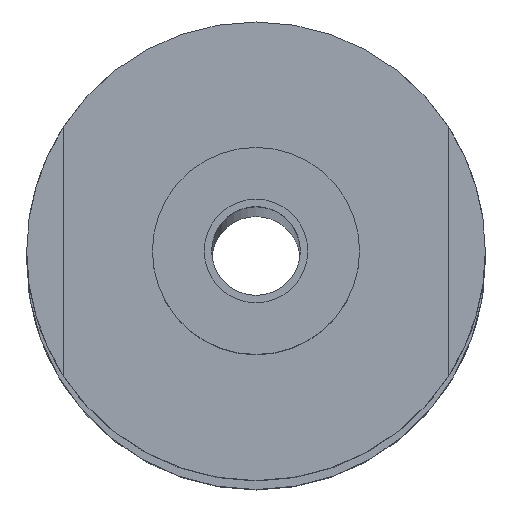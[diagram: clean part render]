
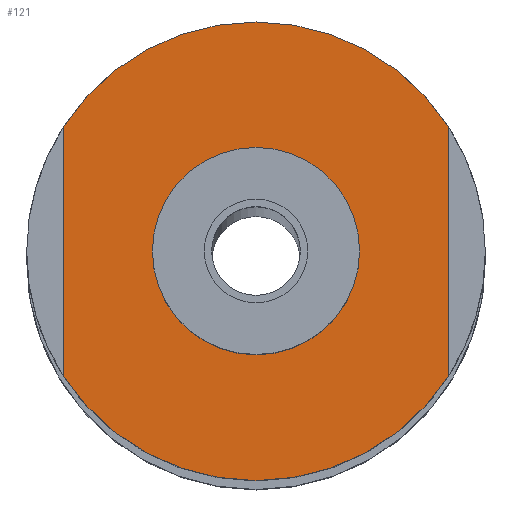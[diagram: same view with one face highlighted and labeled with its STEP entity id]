
A CAD part, top view. The second image highlights one B-rep face of the part: STEP entity #121.
In plain terms, the highlighted planar face has unit normal (0, 0, 1).
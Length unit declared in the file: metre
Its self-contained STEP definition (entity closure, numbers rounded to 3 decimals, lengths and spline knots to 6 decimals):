
#121=ADVANCED_FACE('37:1511',(#238,#239),#240,.T.);
#238=FACE_OUTER_BOUND('',#364,.T.);
#239=FACE_BOUND('',#365,.T.);
#240=PLANE('',#366);
#364=EDGE_LOOP('',(#596,#597,#598,#599,#600,#601));
#365=EDGE_LOOP('',(#602,#603));
#366=AXIS2_PLACEMENT_3D('',#604,#605,#606);
#596=ORIENTED_EDGE('',*,*,#761,.F.);
#597=ORIENTED_EDGE('',*,*,#760,.F.);
#598=ORIENTED_EDGE('',*,*,#756,.F.);
#599=ORIENTED_EDGE('',*,*,#688,.F.);
#600=ORIENTED_EDGE('',*,*,#687,.F.);
#601=ORIENTED_EDGE('',*,*,#751,.T.);
#602=ORIENTED_EDGE('',*,*,#749,.F.);
#603=ORIENTED_EDGE('',*,*,#693,.F.);
#604=CARTESIAN_POINT('',(0.0,0.0,2.725));
#605=DIRECTION('',(0.0,0.0,1.0));
#606=DIRECTION('',(1.0,0.0,0.0));
#687=EDGE_CURVE('37:1561',#812,#814,#815,.F.);
#688=EDGE_CURVE('37:1552',#814,#816,#817,.F.);
#693=EDGE_CURVE('',#822,#825,#826,.T.);
#749=EDGE_CURVE('37:1539',#825,#822,#907,.T.);
#751=EDGE_CURVE('37:3142',#812,#909,#910,.T.);
#756=EDGE_CURVE('37:2641',#816,#917,#918,.F.);
#760=EDGE_CURVE('37:1558',#917,#922,#923,.F.);
#761=EDGE_CURVE('37:1549',#922,#909,#924,.F.);
#812=VERTEX_POINT('',#1001);
#814=VERTEX_POINT('',#1004);
#815=CIRCLE('',#1005,0.0155);
#816=VERTEX_POINT('',#1006);
#817=CIRCLE('',#1007,0.0155);
#822=VERTEX_POINT('',#1013);
#825=VERTEX_POINT('',#1017);
#826=CIRCLE('',#1018,0.007);
#907=CIRCLE('',#1116,0.007);
#909=VERTEX_POINT('',#1118);
#910=LINE('',#1119,#1120);
#917=VERTEX_POINT('',#1130);
#918=LINE('',#1131,#1132);
#922=VERTEX_POINT('',#1137);
#923=CIRCLE('',#1138,0.0155);
#924=CIRCLE('',#1139,0.0155);
#1001=CARTESIAN_POINT('',(-0.013092,0.008536,2.725));
#1004=CARTESIAN_POINT('',(-0.000092,0.015595,2.725));
#1005=AXIS2_PLACEMENT_3D('',#1221,#1222,#1223);
#1006=CARTESIAN_POINT('',(0.012908,0.008536,2.725));
#1007=AXIS2_PLACEMENT_3D('',#1224,#1225,#1226);
#1013=CARTESIAN_POINT('',(0.006908,0.000095,2.725));
#1017=CARTESIAN_POINT('',(-0.007092,0.000095,2.725));
#1018=AXIS2_PLACEMENT_3D('',#1232,#1233,#1234);
#1116=AXIS2_PLACEMENT_3D('',#1318,#1319,#1320);
#1118=CARTESIAN_POINT('',(-0.013092,-0.008346,2.725));
#1119=CARTESIAN_POINT('',(-0.013092,0.000048,2.725));
#1120=VECTOR('',#1321,1.0);
#1130=CARTESIAN_POINT('',(0.012908,-0.008346,2.725));
#1131=CARTESIAN_POINT('',(0.012908,0.000048,2.725));
#1132=VECTOR('',#1325,1.0);
#1137=CARTESIAN_POINT('',(-0.000092,-0.015405,2.725));
#1138=AXIS2_PLACEMENT_3D('',#1330,#1331,#1332);
#1139=AXIS2_PLACEMENT_3D('',#1333,#1334,#1335);
#1221=CARTESIAN_POINT('',(-0.000092,0.000095,2.725));
#1222=DIRECTION('',(0.0,0.0,1.0));
#1223=DIRECTION('',(1.0,0.0,0.0));
#1224=CARTESIAN_POINT('',(-0.000092,0.000095,2.725));
#1225=DIRECTION('',(0.0,0.0,1.0));
#1226=DIRECTION('',(1.0,0.0,0.0));
#1232=CARTESIAN_POINT('',(-0.000092,0.000095,2.725));
#1233=DIRECTION('',(0.0,0.0,1.0));
#1234=DIRECTION('',(1.0,0.0,-0.0));
#1318=CARTESIAN_POINT('',(-0.000092,0.000095,2.725));
#1319=DIRECTION('',(0.0,0.0,1.0));
#1320=DIRECTION('',(1.0,0.0,-0.0));
#1321=DIRECTION('',(0.,-1.0,0.0));
#1325=DIRECTION('',(0.,1.0,0.0));
#1330=CARTESIAN_POINT('',(-0.000092,0.000095,2.725));
#1331=DIRECTION('',(0.0,0.0,1.0));
#1332=DIRECTION('',(1.0,0.0,0.0));
#1333=CARTESIAN_POINT('',(-0.000092,0.000095,2.725));
#1334=DIRECTION('',(0.0,0.0,1.0));
#1335=DIRECTION('',(1.0,0.0,0.0));
